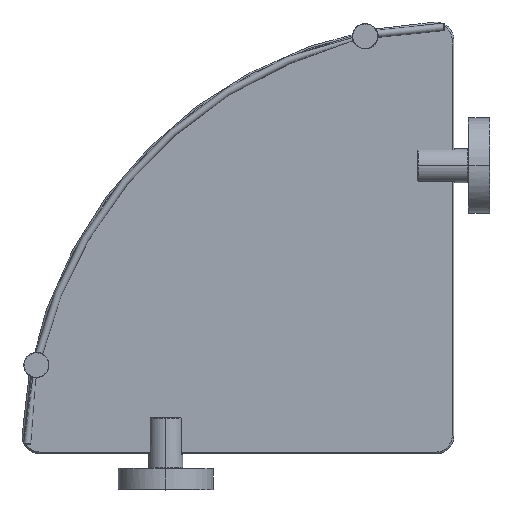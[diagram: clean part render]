
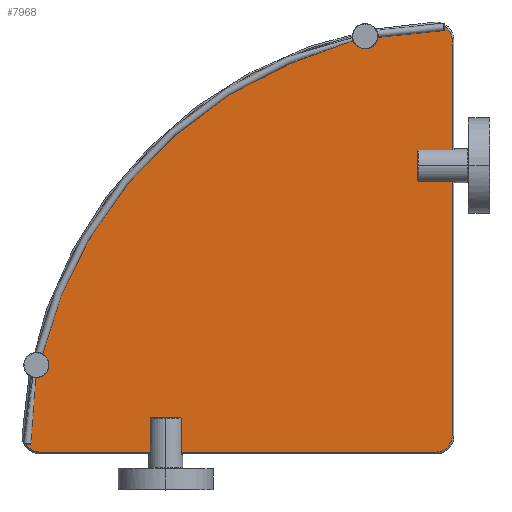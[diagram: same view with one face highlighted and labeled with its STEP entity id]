
A CAD part, top view. The second image highlights one B-rep face of the part: STEP entity #7968.
In plain terms, the highlighted planar face has unit normal (0, 0, 1).
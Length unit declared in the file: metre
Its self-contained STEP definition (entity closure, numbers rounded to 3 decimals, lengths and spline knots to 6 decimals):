
#7968=ADVANCED_FACE('',(#7974),#7969,.F.);
#7969=PLANE('',#7970);
#7970=AXIS2_PLACEMENT_3D('',#7971,#7972,#7973);
#7971=CARTESIAN_POINT('',(0.0,0.0,0.007));
#7972=DIRECTION('',(0.0,0.0,-1.));
#7973=DIRECTION('',(0.707,-0.707,0.0));
#7974=FACE_OUTER_BOUND('',#7975,.T.);
#7975=EDGE_LOOP('',(#7976,#7988,#7996,#8004,#8013,#8021));
#7976=ORIENTED_EDGE('',*,*,#7977,.T.);
#7977=EDGE_CURVE('',#7978,#7980,#7982,.F.);
#7978=VERTEX_POINT('',#7979);
#7979=CARTESIAN_POINT('',(-0.010391,0.238774,0.007));
#7980=VERTEX_POINT('',#7981);
#7981=CARTESIAN_POINT('',(-0.238774,0.010391,0.007));
#7982=CIRCLE('',#7983,0.239);
#7983=AXIS2_PLACEMENT_3D('',#7984,#7985,#7986);
#7984=CARTESIAN_POINT('',(0.0,0.0,0.007));
#7985=DIRECTION('',(0.0,0.0,-1.));
#7986=DIRECTION('',(-0.707,-0.707,0.0));
#7987=CARTESIAN_POINT('',(-0.229783,0.001,
  0.007));
#7988=ORIENTED_EDGE('',*,*,#7989,.T.);
#7989=EDGE_CURVE('',#7980,#7990,#7992,.F.);
#7990=VERTEX_POINT('',#7991);
#7991=CARTESIAN_POINT('',(-0.229783,0.001,
  0.007));
#7992=(B_SPLINE_CURVE(3,(#7987,#7993,#7994,#7995),.UNSPECIFIED.,.F.,.U.)B_SPLINE_CURVE_WITH_KNOTS(
  (4,4),(0.0,1.0),.UNSPECIFIED.)BOUNDED_CURVE()CURVE()GEOMETRIC_REPRESENTATION_ITEM(
  )RATIONAL_B_SPLINE_CURVE((1.0,0.794,0.794,1.0)
  )REPRESENTATION_ITEM(''));
#7993=CARTESIAN_POINT('',(-0.235238,0.001,
  0.007));
#7994=CARTESIAN_POINT('',(-0.239011,0.004941,0.007));
#7995=CARTESIAN_POINT('',(-0.238774,0.010391,0.007));
#7996=ORIENTED_EDGE('',*,*,#7997,.T.);
#7997=EDGE_CURVE('',#7990,#7998,#8000,.T.);
#7998=VERTEX_POINT('',#7999);
#7999=CARTESIAN_POINT('',(-0.01,0.001,0.007));
#8000=LINE('',#8001,#8002);
#8001=CARTESIAN_POINT('',(-0.01,0.001,0.007));
#8002=VECTOR('',#8003,1.);
#8003=DIRECTION('',(1.0,0.0,0.0));
#8004=ORIENTED_EDGE('',*,*,#8005,.T.);
#8005=EDGE_CURVE('',#7998,#8006,#8008,.F.);
#8006=VERTEX_POINT('',#8007);
#8007=CARTESIAN_POINT('',(-0.001,0.01,0.007));
#8008=CIRCLE('',#8009,0.009);
#8009=AXIS2_PLACEMENT_3D('',#8010,#8011,#8012);
#8010=CARTESIAN_POINT('',(-0.01,0.01,0.007));
#8011=DIRECTION('',(0.0,0.0,-1.));
#8012=DIRECTION('',(-0.707,-0.707,0.0));
#8013=ORIENTED_EDGE('',*,*,#8014,.T.);
#8014=EDGE_CURVE('',#8006,#8015,#8017,.T.);
#8015=VERTEX_POINT('',#8016);
#8016=CARTESIAN_POINT('',(-0.001,0.229783,
  0.007));
#8017=LINE('',#8018,#8019);
#8018=CARTESIAN_POINT('',(-0.001,0.229783,
  0.007));
#8019=VECTOR('',#8020,1.);
#8020=DIRECTION('',(0.0,1.0,0.0));
#8021=ORIENTED_EDGE('',*,*,#8022,.T.);
#8022=EDGE_CURVE('',#8015,#7978,#8023,.F.);
#8023=CIRCLE('',#8024,0.009);
#8024=AXIS2_PLACEMENT_3D('',#8025,#8026,#8027);
#8025=CARTESIAN_POINT('',(-0.01,0.229783,0.007));
#8026=DIRECTION('',(0.0,0.0,-1.));
#8027=DIRECTION('',(-0.707,-0.707,0.0));
